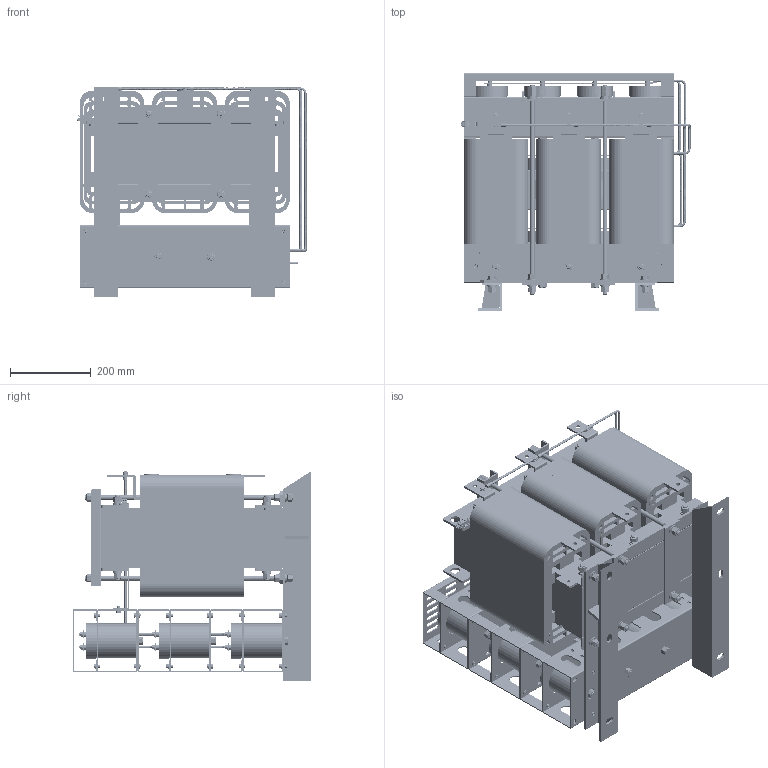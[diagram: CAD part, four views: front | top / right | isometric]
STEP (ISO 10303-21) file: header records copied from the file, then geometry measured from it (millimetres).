
FILE_DESCRIPTION(('STEP AP203'), '1');
FILE_NAME('蔓躅漤铋 耔眢耥 翳朦蝠 _ ISINOF-250_300-6', '', ('UNSPECIFIED'), ('UNSPECIFIED'), 'C3D Converter', 'C3D Toolkit', '');
FILE_SCHEMA(('CONFIG_CONTROL_DESIGN'));
Length unit declared in the file: millimetre
Products named in the file (48): ISINOF-250/300-6; 吒X2\0425\X0\86-125; UРНС№Мх 50x25x4; 琵X2\04270405041504230422\X0\; 琵X2\04270405041504270443\X0\; 琵X2\04370418042D0458042C\X0\2; 琵X2\04370418042D0426\X0\吭X2\04560415\X0\; 愧X2\0437\X0\琵X2\0410\X0\ іЕМх; ёЗЧУ; №么X2\04270426041C0445\X0\12x10x260; ї琵X2\041E\X0\做зЧУKV223-2P; А降еМх450-80-2; Б枯X2\04050423\X0\豹X2\0435\X0\; ЖЅ豹X2\043504560415\X0\豹X2\0435\X0\ 12X30X260; ЖЅ豹X2\043504560415\X0\豹X2\0435\X0\20X50X260; ИэПаМъРѕ440-450-146; С№豹X2\0435\X0\; А降еМх琵X2\0436\X0\豹X2\0435\X0\80-98-2; ЙПјРјю-560ЎБ80ЎБ6; ПВјРјю-490ЎБ80ЎБ40; ПЯИ¦300A; НвДёЕЕ40x5; ДЪДёЕЕ40x5; plain washers--product grade c gb_GB_FASTENER_WASHER_SMWC 12; spring lock washers--normal type gb_GB_FASTENER_WASHER_SW 12; hexagon nuts grade c gb_GB_FASTENER_NUT_SNC1 M12-N; M12x210; M12x520; hexagon head bolts-full thread gb_GB_FASTENER_BOLT_STBAB A M12X35-N; RNB14-6S; plain washers--product grade c gb_GB_FASTENER_WASHER_SMWC 6; hexagon head bolts-full thread gb_GB_FASTENER_BOLT_STBAB A M6X12-N; spring lock washers--normal type gb_GB_FASTENER_WASHER_SW 6; hexagon nuts grade c gb_GB_FASTENER_NUT_SNC1 M6-N; hexagon head bolts-full thread gb_GB_FASTENER_BOLT_STBAB A M6X20-N; Cable_1-ИэПаХэПТІЁВЛІЁЖчSKS-SF-0300-6AЈЇ05; 琵X2\043704100412\X0\^Cable_1-ИэПаХэПТІЁВЛІЁЖчSKS-SF-0300-6AЈЇ05; Cable_2-ИэПаХэПТІЁВЛІЁЖчSKS-SF-0300-6AЈЇ05; 琵X2\043704100412\X0\^Cable_2-ИэПаХэПТІЁВЛІЁЖчSKS-SF-0300-6AЈЇ05; Cable_3-ИэПаХэПТІЁВЛІЁЖчSKS-SF-0300-6AЈЇ05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
Assembly tree (382 placements, depth 3):
  ISINOF-250/300-6
    吒X2\0425\X0\86-125  x12
    UРНС№Мх 50x25x4  x2
    琵X2\04270405041504230422\X0\
    琵X2\04270405041504270443\X0\
    琵X2\04370418042D0458042C\X0\2  x3
    琵X2\04370418042D0426\X0\吭X2\04560415\X0\  x4
    愧X2\0437\X0\琵X2\0410\X0\ іЕМх  x12
    ёЗЧУ
    №么X2\04270426041C0445\X0\12x10x260  x24
    ї琵X2\041E\X0\做зЧУKV223-2P
    А降еМх450-80-2  x6
    Б枯X2\04050423\X0\豹X2\0435\X0\  x6
    ЖЅ豹X2\043504560415\X0\豹X2\0435\X0\ 12X30X260  x12
    ЖЅ豹X2\043504560415\X0\豹X2\0435\X0\20X50X260  x6
    ИэПаМъРѕ440-450-146
    С№豹X2\0435\X0\  x2
    А降еМх琵X2\0436\X0\豹X2\0435\X0\80-98-2  x8
    ЙПјРјю-560ЎБ80ЎБ6  x2
    ПВјРјю-490ЎБ80ЎБ40
    ПЯИ¦300A  x3
    НвДёЕЕ40x5  x3
    ДЪДёЕЕ40x5  x3
    plain washers--product grade c gb_GB_FASTENER_WASHER_SMWC 12  x48
    spring lock washers--normal type gb_GB_FASTENER_WASHER_SW 12  x24
    hexagon nuts grade c gb_GB_FASTENER_NUT_SNC1 M12-N  x44
    M12x210  x6
    M12x520  x4
    hexagon head bolts-full thread gb_GB_FASTENER_BOLT_STBAB A M12X35-N  x4
    RNB14-6S  x9
    plain washers--product grade c gb_GB_FASTENER_WASHER_SMWC 6  x56
    hexagon head bolts-full thread gb_GB_FASTENER_BOLT_STBAB A M6X12-N  x50
    spring lock washers--normal type gb_GB_FASTENER_WASHER_SW 6  x3
    hexagon nuts grade c gb_GB_FASTENER_NUT_SNC1 M6-N  x3
    hexagon head bolts-full thread gb_GB_FASTENER_BOLT_STBAB A M6X20-N  x3
    Cable_1-ИэПаХэПТІЁВЛІЁЖчSKS-SF-0300-6AЈЇ05
      琵X2\043704100412\X0\^Cable_1-ИэПаХэПТІЁВЛІЁЖчSKS-SF-0300-6AЈЇ05
    Cable_2-ИэПаХэПТІЁВЛІЁЖчSKS-SF-0300-6AЈЇ05
      琵X2\043704100412\X0\^Cable_2-ИэПаХэПТІЁВЛІЁЖчSKS-SF-0300-6AЈЇ05
    Cable_3-ИэПаХэПТІЁВЛІЁЖчSKS-SF-0300-6AЈЇ05
      琵X2\043704100412\X0\^Cable_3-ИэПаХэПТІЁВЛІЁЖчSKS-SF-0300-6AЈЇ05
    Cable_4-ИэПаХэПТІЁВЛІЁЖчSKS-SF-0300-6AЈЇ05
      琵X2\043704100412\X0\^Cable_4-ИэПаХэПТІЁВЛІЁЖчSKS-SF-0300-6AЈЇ05
    LРНЦ吭X2\04560415\X0\1  x2
    L1 L2 L3МщЦЅ
    L1ЎЇ L2Ўｮ L3ЎЇМщЦЅ
    琵X2\0428\X0\崤X2\043A\X0\
    ПВјРјю-490ЎБ80ЎБ40 (2)
Bounding box: 567.93 x 590 x 521 mm (x, y, z)
Volume: 55615467.2 mm3; surface area: 9560364.9 mm2
Topology: 417 solids, 417 shells, 5786 faces, 13579 edges, 8849 vertices
Faces by surface type: plane 3496, cylinder 1602, cone 626, bspline 38, torus 24
Full cylindrical faces by diameter (mm): 3 x2, 3.8 x2, 4 x4, 4.917 x3, 6 x124, 6.2 x9, 6.4 x9, 6.6 x56, 6.68 x3, 8 x44, 9.88 x3, 10.106 x44, 11 x6, 12 x104, 12.5 x24, 12.9 x24, 13.5 x48, 14 x50, 18.2 x1, 19 x1, 19.1 x24, 20 x1, 24 x48, 25 x4, 31.5 x6, 37.5 x6, 86 x24, 90 x24
Entity records: 83598 total; most frequent: CARTESIAN_POINT 24776, DIRECTION 8070, ORIENTED_EDGE 7236, EDGE_CURVE 3618, AXIS2_PLACEMENT_3D 2864, VERTEX_POINT 2507, LINE 2342, VECTOR 2342
